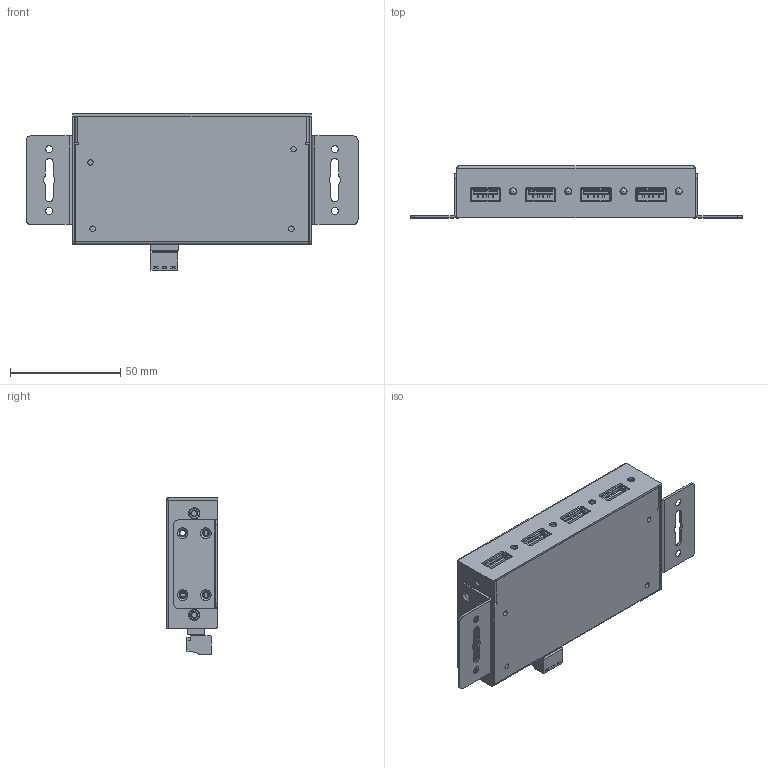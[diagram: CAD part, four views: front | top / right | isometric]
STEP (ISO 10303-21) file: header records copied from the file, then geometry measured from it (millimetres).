
FILE_DESCRIPTION(/* description */ (''),/* implementation_level */ '2;1');
FILE_NAME(/* name */ 'C:/Users/Leo/Desktop/GM-HU34PWL/GM-HU34PWL Model3d LPV1.step',/* time_stamp */ '2021-04-12T15:37:38-04:00',/* author */ (''),/* organization */ (''),/* preprocessor_version */ 'ST-DEVELOPER v18.1',/* originating_system */ 'Autodesk Translation Framework v10.6.0.1341',/* authorisation */ '');
FILE_SCHEMA (('AUTOMOTIVE_DESIGN { 1 0 10303 214 3 1 1 }'));
Products named in the file (5): GM-HU34PWL; HUBPA30-38-F-B_1; HUBPA30-38-F-B_1_1; Component53; Terminal 3 Connector 3.5 v2
Assembly tree (4 placements, depth 2):
  GM-HU34PWL
    HUBPA30-38-F-B_1
    HUBPA30-38-F-B_1_1
    Component53
    Terminal 3 Connector 3.5 v2
Bounding box: 150.32 x 23.51 x 70.75 mm (x, y, z)
Volume: 42914.8 mm3; surface area: 72549.9 mm2
Topology: 4 solids, 6 shells, 3728 faces, 10456 edges, 6857 vertices
Faces by surface type: cylinder 2015, plane 1573, torus 68, sphere 26, bspline 24, cone 22
Full cylindrical faces by diameter (mm): 1.2 x3, 2 x7, 2.5 x16, 2.8 x6, 3 x5, 3.1 x4, 3.2 x20, 3.4 x1, 4.5 x12, 4.9 x4, 6 x1, 6.3 x1, 8 x1
Entity records: 124465 total; most frequent: CARTESIAN_POINT 24059, DIRECTION 21863, ORIENTED_EDGE 20860, EDGE_CURVE 10430, AXIS2_PLACEMENT_3D 7852, VERTEX_POINT 6857, LINE 6159, VECTOR 6159
